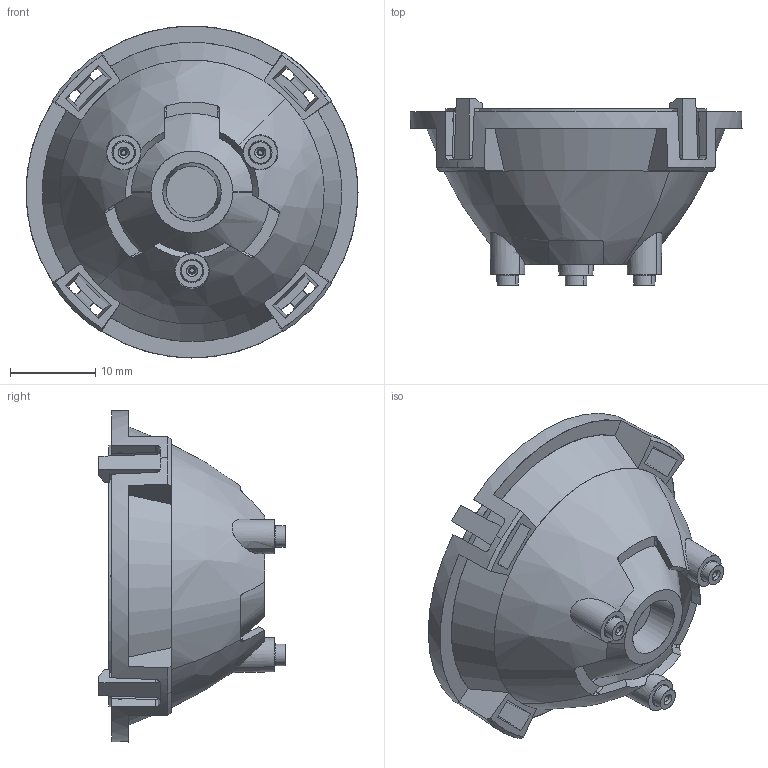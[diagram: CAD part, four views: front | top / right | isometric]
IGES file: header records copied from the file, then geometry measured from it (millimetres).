
Start section: SolidWorks IGES file using analytic representation for surfaces
Global section: file name: C:\P-Gold\Projects\Lenses\LuxPar_Lenses\01-Luxspot\2400-0033\Application\LLxx-1T06-P3_RevF.IGS; native system: SolidWorks 2013; preprocessor: SolidWorks 2013; author: dadebiyi; date: 140122.094754; units: millimetre
Bounding box: 39.05 x 21.9 x 39.05 mm (x, y, z)
Surface area: 7522.8 mm2 (no closed solid volume)
Topology: 0 solids, 0 shells, 227 faces, 2772 edges, 2772 vertices
Faces by surface type: bspline 145, revolution 82
